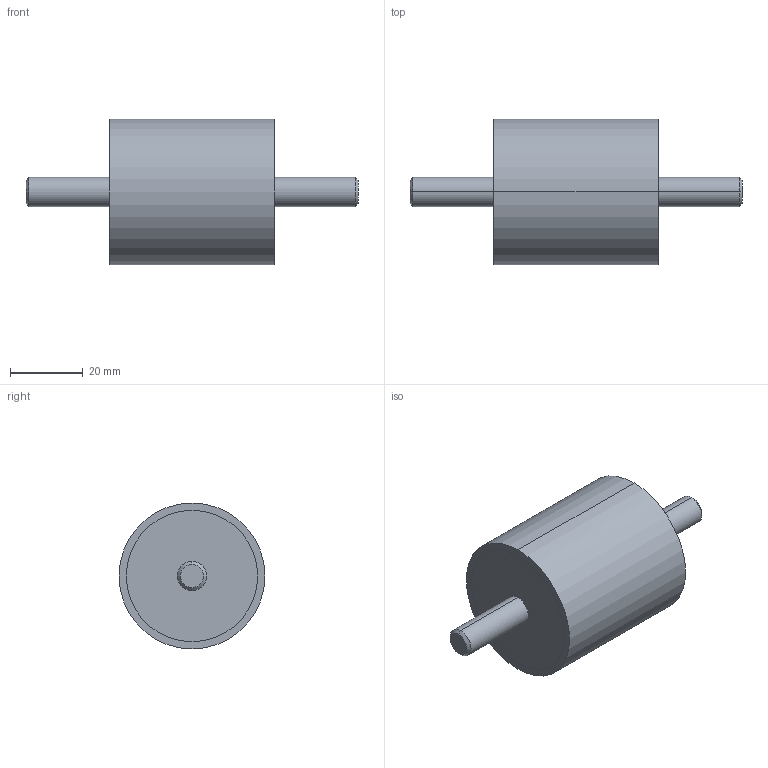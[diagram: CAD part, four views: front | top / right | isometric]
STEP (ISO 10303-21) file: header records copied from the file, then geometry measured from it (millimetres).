
FILE_DESCRIPTION (( 'STEP AP214' ), '1' );
FILE_NAME ('351-40-45-M8-SS-70.step', '2025-07-23T09:45:42', ( '' ), ( '' ), 'SwSTEP 2.0', 'SolidWorks 2022', '' );
FILE_SCHEMA (( 'AUTOMOTIVE_DESIGN' ));
Length unit declared in the file: millimetre
Products named in the file (1): 351-40-45-M8-SS-70
Bounding box: 91 x 40 x 40 mm (x, y, z)
Volume: 58826.5 mm3; surface area: 9301.8 mm2
Topology: 1 solids, 1 shells, 20 faces, 38 edges, 24 vertices
Faces by surface type: cylinder 10, plane 6, cone 4
Entity records: 636 total; most frequent: DIRECTION 104, CARTESIAN_POINT 83, ORIENTED_EDGE 76, AXIS2_PLACEMENT_3D 45, EDGE_CURVE 38, EDGE_LOOP 24, VERTEX_POINT 24, CIRCLE 24
